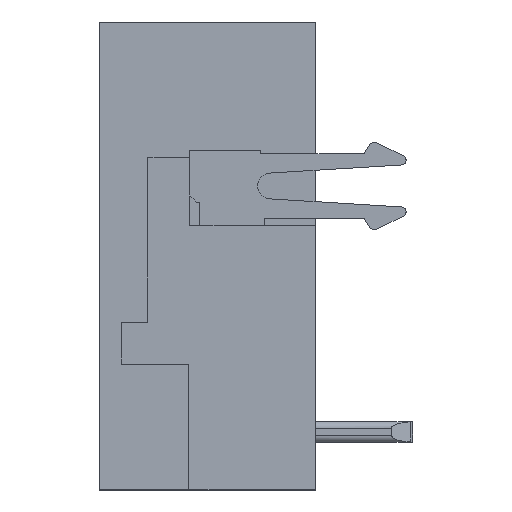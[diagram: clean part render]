
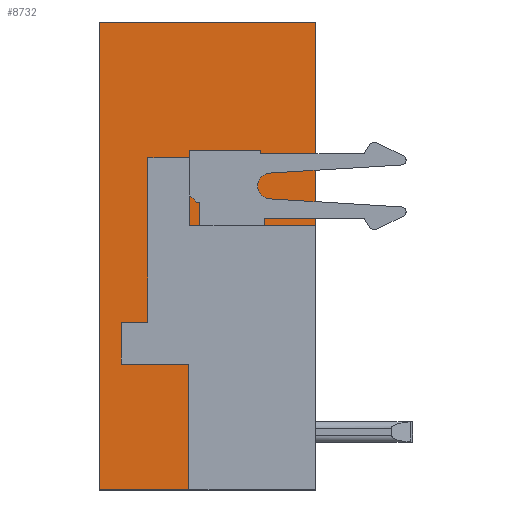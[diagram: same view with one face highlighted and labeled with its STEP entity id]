
A CAD part, left-side view. The second image highlights one B-rep face of the part: STEP entity #8732.
In plain terms, the highlighted planar face has unit normal (-1, 0, 0).
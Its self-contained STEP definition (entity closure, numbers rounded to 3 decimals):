
#41 = CARTESIAN_POINT ( 'NONE',  ( -7.975, 0., 4.4 ) ) ;
#44 = EDGE_CURVE ( 'NONE', #1918, #5983, #4708, .T. ) ;
#48 = VERTEX_POINT ( 'NONE', #3044 ) ;
#202 = CARTESIAN_POINT ( 'NONE',  ( -7.975, 6.7, 10.7 ) ) ;
#216 = VECTOR ( 'NONE', #3813, 1000. ) ;
#242 = EDGE_CURVE ( 'NONE', #3517, #4939, #3937, .T. ) ;
#277 = ORIENTED_EDGE ( 'NONE', *, *, #2482, .T. ) ;
#330 = LINE ( 'NONE', #4912, #5648 ) ;
#355 = VERTEX_POINT ( 'NONE', #4742 ) ;
#406 = DIRECTION ( 'NONE',  ( 0., 0., 1. ) ) ;
#417 = EDGE_LOOP ( 'NONE', ( #4887, #5643, #7737, #8689, #8344, #1008, #8485, #3468, #277, #1904, #8640, #7992 ) ) ;
#569 = EDGE_CURVE ( 'NONE', #4939, #355, #6577, .T. ) ;
#776 = EDGE_CURVE ( 'NONE', #48, #2937, #7551, .T. ) ;
#823 = CARTESIAN_POINT ( 'NONE',  ( -7.975, 6.03, 0.1 ) ) ;
#980 = CARTESIAN_POINT ( 'NONE',  ( -7.975, 0., 10.7 ) ) ;
#1008 = ORIENTED_EDGE ( 'NONE', *, *, #8447, .T. ) ;
#1059 = DIRECTION ( 'NONE',  ( 0., -1., 0. ) ) ;
#1212 = AXIS2_PLACEMENT_3D ( 'NONE', #3389, #6224, #6882 ) ;
#1245 = CARTESIAN_POINT ( 'NONE',  ( -7.975, 3.9, 4.4 ) ) ;
#1288 = CARTESIAN_POINT ( 'NONE',  ( -7.975, 3.93, -3.8 ) ) ;
#1758 = VERTEX_POINT ( 'NONE', #4865 ) ;
#1904 = ORIENTED_EDGE ( 'NONE', *, *, #44, .T. ) ;
#1918 = VERTEX_POINT ( 'NONE', #5017 ) ;
#2058 = LINE ( 'NONE', #3657, #216 ) ;
#2307 = DIRECTION ( 'NONE',  ( 0., 1., 0. ) ) ;
#2344 = CARTESIAN_POINT ( 'NONE',  ( -7.975, 3.9, 6.5 ) ) ;
#2364 = CARTESIAN_POINT ( 'NONE',  ( -7.975, 3.93, 0.1 ) ) ;
#2433 = LINE ( 'NONE', #2364, #6603 ) ;
#2482 = EDGE_CURVE ( 'NONE', #355, #1918, #7068, .T. ) ;
#2609 = EDGE_CURVE ( 'NONE', #5983, #6698, #2058, .T. ) ;
#2633 = VECTOR ( 'NONE', #8707, 1000. ) ;
#2937 = VERTEX_POINT ( 'NONE', #5805 ) ;
#3042 = EDGE_CURVE ( 'NONE', #5301, #5183, #3779, .T. ) ;
#3044 = CARTESIAN_POINT ( 'NONE',  ( -7.975, 5.2, 1.4 ) ) ;
#3126 = CARTESIAN_POINT ( 'NONE',  ( -7.975, 5.2, 1.4 ) ) ;
#3262 = VECTOR ( 'NONE', #8148, 1000. ) ;
#3324 = VECTOR ( 'NONE', #4442, 1000. ) ;
#3389 = CARTESIAN_POINT ( 'NONE',  ( -7.975, 6.7, 0. ) ) ;
#3445 = DIRECTION ( 'NONE',  ( 0., 0., -1. ) ) ;
#3468 = ORIENTED_EDGE ( 'NONE', *, *, #569, .T. ) ;
#3517 = VERTEX_POINT ( 'NONE', #2344 ) ;
#3530 = CARTESIAN_POINT ( 'NONE',  ( -7.975, 6.7, -3.8 ) ) ;
#3564 = VECTOR ( 'NONE', #3898, 1000. ) ;
#3657 = CARTESIAN_POINT ( 'NONE',  ( -7.975, 6.7, 10.7 ) ) ;
#3741 = EDGE_CURVE ( 'NONE', #4543, #1758, #330, .T. ) ;
#3779 = LINE ( 'NONE', #8041, #3324 ) ;
#3813 = DIRECTION ( 'NONE',  ( 0., 0., -1. ) ) ;
#3898 = DIRECTION ( 'NONE',  ( 0., -1., 0. ) ) ;
#3929 = VECTOR ( 'NONE', #406, 1000. ) ;
#3937 = LINE ( 'NONE', #7635, #4696 ) ;
#3955 = EDGE_CURVE ( 'NONE', #1758, #5301, #2433, .T. ) ;
#4107 = LINE ( 'NONE', #5841, #4436 ) ;
#4291 = DIRECTION ( 'NONE',  ( 0., 0., 1. ) ) ;
#4436 = VECTOR ( 'NONE', #1059, 1000. ) ;
#4442 = DIRECTION ( 'NONE',  ( 0., 0., 1. ) ) ;
#4451 = CARTESIAN_POINT ( 'NONE',  ( -7.975, 3.9, 4.4 ) ) ;
#4474 = CARTESIAN_POINT ( 'NONE',  ( -7.975, 5.2, 6.5 ) ) ;
#4543 = VERTEX_POINT ( 'NONE', #1288 ) ;
#4696 = VECTOR ( 'NONE', #3445, 1000. ) ;
#4708 = LINE ( 'NONE', #980, #2633 ) ;
#4742 = CARTESIAN_POINT ( 'NONE',  ( -7.975, 0., 4.4 ) ) ;
#4865 = CARTESIAN_POINT ( 'NONE',  ( -7.975, 3.93, 0.1 ) ) ;
#4873 = FACE_OUTER_BOUND ( 'NONE', #417, .T. ) ;
#4887 = ORIENTED_EDGE ( 'NONE', *, *, #3741, .T. ) ;
#4912 = CARTESIAN_POINT ( 'NONE',  ( -7.975, 3.93, -3.8 ) ) ;
#4939 = VERTEX_POINT ( 'NONE', #4451 ) ;
#5017 = CARTESIAN_POINT ( 'NONE',  ( -7.975, 0., 10.7 ) ) ;
#5183 = VERTEX_POINT ( 'NONE', #8957 ) ;
#5301 = VERTEX_POINT ( 'NONE', #823 ) ;
#5643 = ORIENTED_EDGE ( 'NONE', *, *, #3955, .T. ) ;
#5648 = VECTOR ( 'NONE', #7011, 1000. ) ;
#5805 = CARTESIAN_POINT ( 'NONE',  ( -7.975, 5.2, 6.5 ) ) ;
#5841 = CARTESIAN_POINT ( 'NONE',  ( -7.975, 6.7, -3.8 ) ) ;
#5983 = VERTEX_POINT ( 'NONE', #202 ) ;
#6224 = DIRECTION ( 'NONE',  ( -1., 0., 0. ) ) ;
#6292 = PLANE ( 'NONE',  #1212 ) ;
#6573 = DIRECTION ( 'NONE',  ( 0., -1., 0. ) ) ;
#6577 = LINE ( 'NONE', #1245, #3262 ) ;
#6603 = VECTOR ( 'NONE', #2307, 1000. ) ;
#6698 = VERTEX_POINT ( 'NONE', #3530 ) ;
#6741 = LINE ( 'NONE', #8117, #3564 ) ;
#6846 = VECTOR ( 'NONE', #6573, 1000. ) ;
#6882 = DIRECTION ( 'NONE',  ( 0., 0., 1. ) ) ;
#7011 = DIRECTION ( 'NONE',  ( 0., 0., 1. ) ) ;
#7068 = LINE ( 'NONE', #41, #8747 ) ;
#7387 = LINE ( 'NONE', #4474, #6846 ) ;
#7551 = LINE ( 'NONE', #3126, #3929 ) ;
#7635 = CARTESIAN_POINT ( 'NONE',  ( -7.975, 3.9, 6.5 ) ) ;
#7737 = ORIENTED_EDGE ( 'NONE', *, *, #3042, .T. ) ;
#7992 = ORIENTED_EDGE ( 'NONE', *, *, #8416, .T. ) ;
#8041 = CARTESIAN_POINT ( 'NONE',  ( -7.975, 6.03, 0.1 ) ) ;
#8107 = EDGE_CURVE ( 'NONE', #5183, #48, #6741, .T. ) ;
#8117 = CARTESIAN_POINT ( 'NONE',  ( -7.975, 6.03, 1.4 ) ) ;
#8148 = DIRECTION ( 'NONE',  ( 0., -1., 0. ) ) ;
#8344 = ORIENTED_EDGE ( 'NONE', *, *, #776, .T. ) ;
#8416 = EDGE_CURVE ( 'NONE', #6698, #4543, #4107, .T. ) ;
#8447 = EDGE_CURVE ( 'NONE', #2937, #3517, #7387, .T. ) ;
#8485 = ORIENTED_EDGE ( 'NONE', *, *, #242, .T. ) ;
#8640 = ORIENTED_EDGE ( 'NONE', *, *, #2609, .T. ) ;
#8689 = ORIENTED_EDGE ( 'NONE', *, *, #8107, .T. ) ;
#8707 = DIRECTION ( 'NONE',  ( 0., 1., 0. ) ) ;
#8732 = ADVANCED_FACE ( 'NONE', ( #4873 ), #6292, .T. ) ;
#8747 = VECTOR ( 'NONE', #4291, 1000. ) ;
#8957 = CARTESIAN_POINT ( 'NONE',  ( -7.975, 6.03, 1.4 ) ) ;
